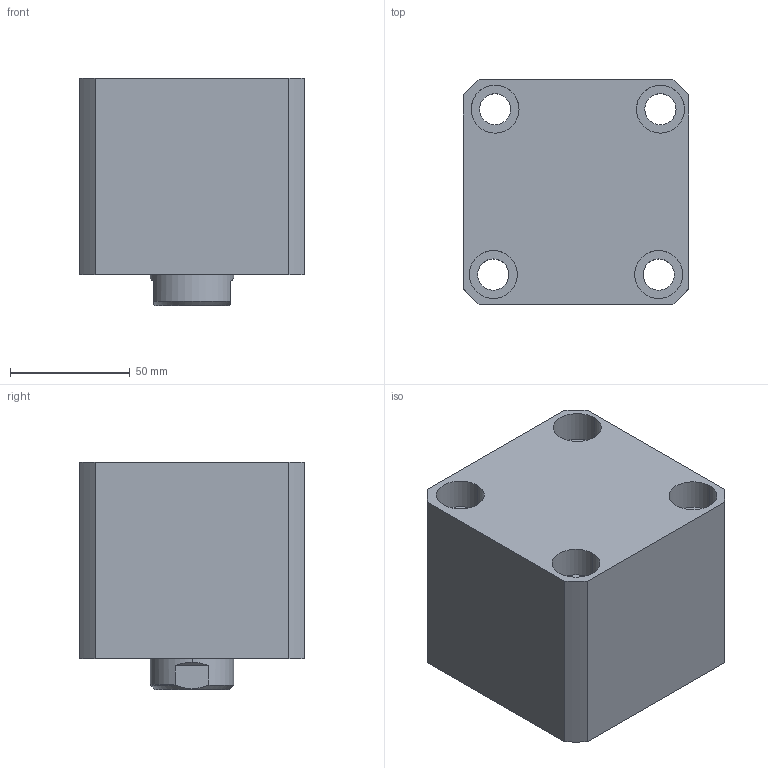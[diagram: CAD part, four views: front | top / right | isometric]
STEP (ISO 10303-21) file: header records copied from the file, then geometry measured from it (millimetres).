
FILE_DESCRIPTION (( 'STEP AP214' ), '1' );
FILE_NAME ('chtb-sdma63x15n_asm.STEP', '2018-05-16T02:20:31', ( 'Windows' ), ( 'Microsoft' ), 'SwSTEP 2.0', 'SolidWorks 2015', '' );
FILE_SCHEMA (( 'AUTOMOTIVE_DESIGN' ));
Length unit declared in the file: millimetre
Products named in the file (4): CHTB-SDMA63X15NBT; CHTB63X15NHSG; CHTB-63QG; chtb-sdma63x15n_asm
Assembly tree (3 placements, depth 2):
  chtb-sdma63x15n_asm
    CHTB-63QG
    CHTB63X15NHSG
    CHTB-SDMA63X15NBT
Bounding box: 94 x 94 x 95 mm (x, y, z)
Volume: 623795.8 mm3; surface area: 115931.7 mm2
Topology: 3 solids, 3 shells, 165 faces, 472 edges, 321 vertices
Faces by surface type: cylinder 107, plane 31, bspline 12, cone 8, torus 7
Entity records: 17727 total; most frequent: CARTESIAN_POINT 13576, ORIENTED_EDGE 932, DIRECTION 716, EDGE_CURVE 466, VERTEX_POINT 321, AXIS2_PLACEMENT_3D 288, EDGE_LOOP 197, ADVANCED_FACE 165
